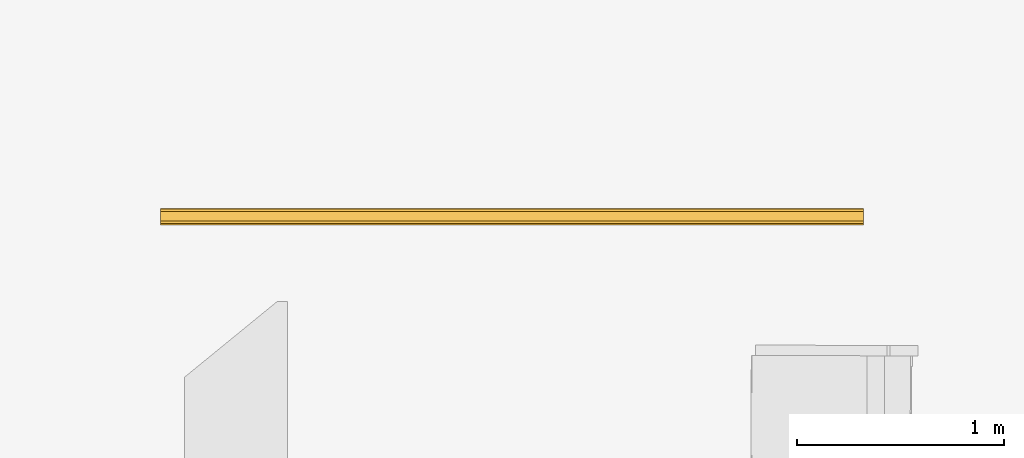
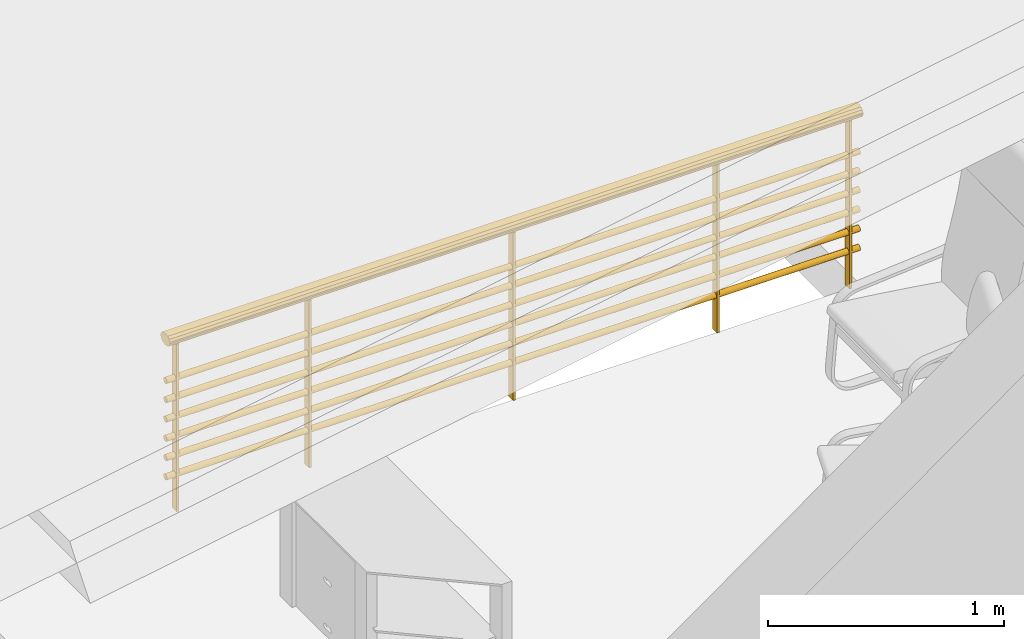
# One storey, part 5 of 6: 1 railing.
"""IFC2X3 building model written with IfcOpenShell, lengths in metres."""

from ifc_helpers import new_model, entity, si_unit, converted_unit, derived_unit, direction, frame, frame_2d, origin, origin_2d_with_axis, place, context, subcontext, project, spatial, polyline, rectangle, circle, outline, extrude, material, material_list, element, save


model = new_model("IFC2X3")

# Units and contexts
model_context = context("Model", 3, precision=1e-05, world=origin(), true_north=direction((6.12303176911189e-17, 1.0)))
body_context = subcontext(model_context, "Body", "Model", "MODEL_VIEW")
ifc_project = project(units=[si_unit("LENGTHUNIT", "METRE"), si_unit("AREAUNIT", "SQUARE_METRE"), si_unit("VOLUMEUNIT", "CUBIC_METRE"), converted_unit("PLANEANGLEUNIT", "DEGREE", entity("IfcRatioMeasure", 0.0174532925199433), si_unit("PLANEANGLEUNIT", "RADIAN"), dimensions=[0, 0, 0, 0, 0, 0, 0]), si_unit("MASSUNIT", "GRAM", prefix="KILO"), derived_unit("MASSDENSITYUNIT", [(si_unit("MASSUNIT", "GRAM", prefix="KILO"), 1), (si_unit("LENGTHUNIT", "METRE"), -3)]), derived_unit("MOMENTOFINERTIAUNIT", [(si_unit("LENGTHUNIT", "METRE"), 4)]), si_unit("TIMEUNIT", "SECOND"), si_unit("FREQUENCYUNIT", "HERTZ"), si_unit("THERMODYNAMICTEMPERATUREUNIT", "DEGREE_CELSIUS"), derived_unit("THERMALTRANSMITTANCEUNIT", [(si_unit("MASSUNIT", "GRAM", prefix="KILO"), 1), (si_unit("THERMODYNAMICTEMPERATUREUNIT", "KELVIN"), -1), (si_unit("TIMEUNIT", "SECOND"), -3)]), derived_unit("VOLUMETRICFLOWRATEUNIT", [(si_unit("LENGTHUNIT", "METRE"), 3), (si_unit("TIMEUNIT", "SECOND"), -1)]), si_unit("ELECTRICCURRENTUNIT", "AMPERE"), si_unit("ELECTRICVOLTAGEUNIT", "VOLT"), si_unit("POWERUNIT", "WATT"), si_unit("FORCEUNIT", "NEWTON", prefix="KILO"), si_unit("ILLUMINANCEUNIT", "LUX"), si_unit("LUMINOUSFLUXUNIT", "LUMEN"), si_unit("LUMINOUSINTENSITYUNIT", "CANDELA"), derived_unit("USERDEFINED", [(si_unit("MASSUNIT", "GRAM", prefix="KILO"), -1), (si_unit("LENGTHUNIT", "METRE"), -2), (si_unit("TIMEUNIT", "SECOND"), 3), (si_unit("LUMINOUSFLUXUNIT", "LUMEN"), 1)]), derived_unit("LINEARVELOCITYUNIT", [(si_unit("LENGTHUNIT", "METRE"), 1), (si_unit("TIMEUNIT", "SECOND"), -1)]), si_unit("PRESSUREUNIT", "PASCAL"), derived_unit("USERDEFINED", [(si_unit("LENGTHUNIT", "METRE"), -2), (si_unit("MASSUNIT", "GRAM", prefix="KILO"), 1), (si_unit("TIMEUNIT", "SECOND"), -2)]), derived_unit("LINEARFORCEUNIT", [(si_unit("MASSUNIT", "GRAM", prefix="KILO"), 1), (si_unit("LENGTHUNIT", "METRE"), 1), (si_unit("TIMEUNIT", "SECOND"), -2), (si_unit("LENGTHUNIT", "METRE"), -1)]), derived_unit("PLANARFORCEUNIT", [(si_unit("MASSUNIT", "GRAM", prefix="KILO"), 1), (si_unit("LENGTHUNIT", "METRE"), 1), (si_unit("TIMEUNIT", "SECOND"), -2), (si_unit("LENGTHUNIT", "METRE"), -2)])], contexts=[model_context])

# Site, building, storey
site_placement = place(None, origin())
site = spatial("IfcSite", under=ifc_project, at=site_placement, Name="Surface", CompositionType="ELEMENT")
building_placement = place(site_placement, origin())
building = spatial("IfcBuilding", under=site, at=building_placement, CompositionType="ELEMENT")
storey_placement = place(building_placement, frame((0.0, 0.0, 5.6)))
storey = spatial("IfcBuildingStorey", under=building, at=storey_placement, Name="Niveau comble", CompositionType="ELEMENT", Elevation=5.6)

# Railing
ifc_material_1 = material(Name="Peinture - Grise")
ifc_material_2 = material(Name="Peinture - Noir")
ifc_material_3 = material(Name="Plastique - Noir")
ifc_material_4 = material(Name="Pin (1)")
ifc_material_list = material_list([ifc_material_1, ifc_material_1, ifc_material_1, ifc_material_1, ifc_material_1, ifc_material_2, ifc_material_2, ifc_material_3, ifc_material_2, ifc_material_2, ifc_material_2, ifc_material_4])
railing_placement = place(storey_placement, origin())
element("IfcRailing", 1, at=railing_placement, inside=storey, material=ifc_material_list, Name="Garde-corps:Type Bateau", ObjectType="Garde-corps:Type Bateau", PredefinedType="NOTDEFINED", context=body_context, shape_type="SweptSolid", body=[
    extrude(rectangle(XDim=0.012, YDim=0.0399999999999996, at=frame_2d((-2.70616862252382e-16, 0.0), x_axis=(1.0, 0.0))), frame((3.62476672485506, 5.86379665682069, 0.0)), (0.0, 0.0, 1.0), 0.869846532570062),
    extrude(rectangle(XDim=0.012, YDim=0.0399999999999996, at=frame_2d((-2.70616862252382e-16, 0.0), x_axis=(1.0, 0.0))), frame((4.62476672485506, 5.86379665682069, 0.0)), (0.0, 0.0, 1.0), 0.869846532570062),
    extrude(rectangle(XDim=0.0119999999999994, YDim=0.0399999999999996, at=origin_2d_with_axis()), frame((5.62476672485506, 5.86379665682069, 0.0)), (0.0, 0.0, 1.0), 0.869846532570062),
    extrude(rectangle(XDim=0.012, YDim=0.0399999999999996, at=frame_2d((2.70616862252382e-16, 0.0), x_axis=(1.0, 0.0))), frame((2.97476672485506, 5.86379665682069, 0.0)), (0.0, 0.0, 1.0), 0.869846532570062),
    extrude(rectangle(XDim=0.0119999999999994, YDim=0.0399999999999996, at=origin_2d_with_axis()), frame((6.27476672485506, 5.86379665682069, 0.0)), (0.0, 0.0, 1.0), 0.869846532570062),
    extrude(circle(Radius=0.015, at=origin_2d_with_axis()), frame((2.92476672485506, 5.86379665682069, 0.685), z_axis=(1.0, 0.0, 0.0), x_axis=(0.0, 1.0, 0.0)), (0.0, 0.0, 1.0), 3.4),
    extrude(circle(Radius=0.015, at=origin_2d_with_axis()), frame((2.92476672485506, 5.86379665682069, 0.585), z_axis=(1.0, 0.0, 0.0), x_axis=(0.0, 1.0, 0.0)), (0.0, 0.0, 1.0), 3.4),
    extrude(circle(Radius=0.015, at=origin_2d_with_axis()), frame((2.92476672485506, 5.86379665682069, 0.485), z_axis=(1.0, 0.0, 0.0), x_axis=(0.0, 1.0, 0.0)), (0.0, 0.0, 1.0), 3.4),
    extrude(circle(Radius=0.015, at=origin_2d_with_axis()), frame((2.92476672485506, 5.86379665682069, 0.385), z_axis=(1.0, 0.0, 0.0), x_axis=(0.0, 1.0, 0.0)), (0.0, 0.0, 1.0), 3.4),
    extrude(circle(Radius=0.015, at=origin_2d_with_axis()), frame((2.92476672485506, 5.86379665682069, 0.285), z_axis=(1.0, 0.0, 0.0), x_axis=(0.0, 1.0, 0.0)), (0.0, 0.0, 1.0), 3.4),
    extrude(circle(Radius=0.015, at=origin_2d_with_axis()), frame((2.92476672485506, 5.86379665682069, 0.185), z_axis=(1.0, 0.0, 0.0), x_axis=(0.0, 1.0, 0.0)), (0.0, 0.0, 1.0), 3.4),
    extrude(outline(polyline([(-0.0109067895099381, -0.0384843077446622), (0.00177588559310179, -0.0384843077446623), (0.0141514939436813, -0.0318300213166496), (0.0240801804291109, -0.019672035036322), (0.029845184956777, -0.00411257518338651), (0.0304496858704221, 0.012157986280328), (0.0257891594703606, 0.0263263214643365), (0.0166694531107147, 0.0359425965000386), (0.0109067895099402, 0.0384843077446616), (-0.0017758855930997, 0.0384843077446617), (-0.0141514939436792, 0.031830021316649), (-0.0240801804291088, 0.0196720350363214), (-0.0298451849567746, 0.00411257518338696), (-0.03044968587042, -0.0121579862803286), (-0.0257891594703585, -0.0263263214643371), (-0.0166694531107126, -0.0359425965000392), (-0.0109067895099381, -0.0384843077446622)])), frame((2.92476672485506, 5.86379665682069, 0.899999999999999), z_axis=(1.0, 0.0, 0.0), x_axis=(0.0, -0.272669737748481, 0.962107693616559)), (0.0, 0.0, 1.0), 3.4),
])

save(model, "model.ifc")
